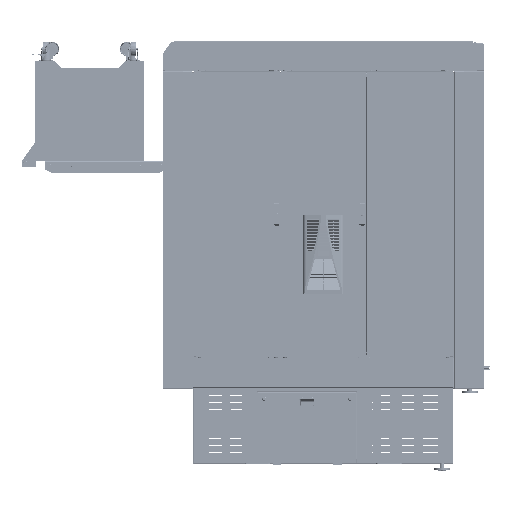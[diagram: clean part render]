
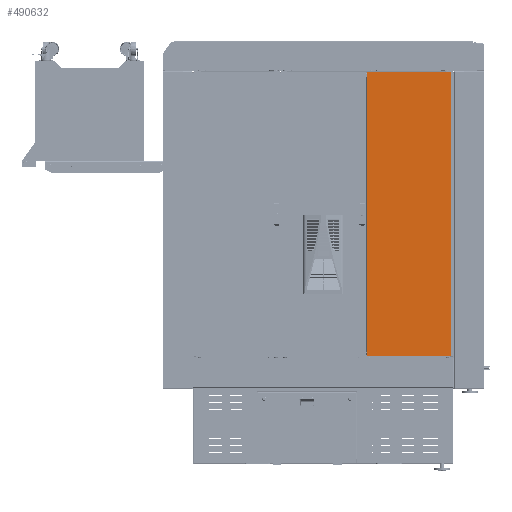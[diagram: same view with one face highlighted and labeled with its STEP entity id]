
A CAD part, top view. The second image highlights one B-rep face of the part: STEP entity #490632.
In plain terms, the highlighted planar face has unit normal (0, 0, 1).
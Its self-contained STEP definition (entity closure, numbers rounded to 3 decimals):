
#17612=PLANE('',#522919);
#36676=FACE_OUTER_BOUND('',#64797,.T.);
#64797=EDGE_LOOP('',(#354142,#354143,#354144,#354145,#354146,#354147,#354148,
#354149));
#100530=LINE('',#722301,#153132);
#100635=LINE('',#722561,#153237);
#100641=LINE('',#722575,#153243);
#100650=LINE('',#722592,#153252);
#100654=LINE('',#722600,#153256);
#100655=LINE('',#722601,#153257);
#100656=LINE('',#722603,#153258);
#100657=LINE('',#722604,#153259);
#153132=VECTOR('',#580169,1000.);
#153237=VECTOR('',#580334,1000.);
#153243=VECTOR('',#580344,1000.);
#153252=VECTOR('',#580357,1000.);
#153256=VECTOR('',#580363,1000.);
#153257=VECTOR('',#580364,1000.);
#153258=VECTOR('',#580365,1000.);
#153259=VECTOR('',#580366,1000.);
#221130=VERTEX_POINT('',#722298);
#221131=VERTEX_POINT('',#722300);
#221235=VERTEX_POINT('',#722558);
#221236=VERTEX_POINT('',#722560);
#221241=VERTEX_POINT('',#722573);
#221242=VERTEX_POINT('',#722574);
#221251=VERTEX_POINT('',#722599);
#221252=VERTEX_POINT('',#722602);
#271157=EDGE_CURVE('',#221130,#221131,#100530,.T.);
#271276=EDGE_CURVE('',#221236,#221235,#100635,.T.);
#271282=EDGE_CURVE('',#221241,#221242,#100641,.T.);
#271291=EDGE_CURVE('',#221235,#221131,#100650,.T.);
#271295=EDGE_CURVE('',#221130,#221251,#100654,.T.);
#271296=EDGE_CURVE('',#221251,#221241,#100655,.T.);
#271297=EDGE_CURVE('',#221242,#221252,#100656,.T.);
#271298=EDGE_CURVE('',#221252,#221236,#100657,.T.);
#354142=ORIENTED_EDGE('',*,*,#271291,.T.);
#354143=ORIENTED_EDGE('',*,*,#271157,.F.);
#354144=ORIENTED_EDGE('',*,*,#271295,.T.);
#354145=ORIENTED_EDGE('',*,*,#271296,.T.);
#354146=ORIENTED_EDGE('',*,*,#271282,.T.);
#354147=ORIENTED_EDGE('',*,*,#271297,.T.);
#354148=ORIENTED_EDGE('',*,*,#271298,.T.);
#354149=ORIENTED_EDGE('',*,*,#271276,.T.);
#490632=ADVANCED_FACE('',(#36676),#17612,.T.);
#522919=AXIS2_PLACEMENT_3D('',#722598,#580361,#580362);
#580169=DIRECTION('',(-1.,0.,0.));
#580334=DIRECTION('',(1.,0.,0.));
#580344=DIRECTION('',(0.,1.,0.));
#580357=DIRECTION('',(0.,1.,0.));
#580361=DIRECTION('center_axis',(0.,0.,1.));
#580362=DIRECTION('ref_axis',(-1.,0.,0.));
#580363=DIRECTION('',(0.,1.,0.));
#580364=DIRECTION('',(-1.,0.,0.));
#580365=DIRECTION('',(-1.,0.,0.));
#580366=DIRECTION('',(0.,-1.,0.));
#722298=CARTESIAN_POINT('',(-3.028,43.,253.507));
#722300=CARTESIAN_POINT('',(-3.262,43.,253.507));
#722301=CARTESIAN_POINT('',(-3.028,43.,253.507));
#722558=CARTESIAN_POINT('',(-3.262,11.,253.507));
#722560=CARTESIAN_POINT('',(-595.812,11.,253.507));
#722561=CARTESIAN_POINT('',(-595.812,11.,253.507));
#722573=CARTESIAN_POINT('',(-3.262,1963.5,253.507));
#722574=CARTESIAN_POINT('',(-3.262,1995.5,253.507));
#722575=CARTESIAN_POINT('',(-3.262,11.,253.507));
#722592=CARTESIAN_POINT('',(-3.262,11.,253.507));
#722598=CARTESIAN_POINT('Origin',(-299.812,1003.25,253.507));
#722599=CARTESIAN_POINT('',(-3.028,1963.5,253.507));
#722600=CARTESIAN_POINT('',(-3.028,43.,253.507));
#722601=CARTESIAN_POINT('',(-3.028,1963.5,253.507));
#722602=CARTESIAN_POINT('',(-595.812,1995.5,253.507));
#722603=CARTESIAN_POINT('',(-3.262,1995.5,253.507));
#722604=CARTESIAN_POINT('',(-595.812,1995.5,253.507));
